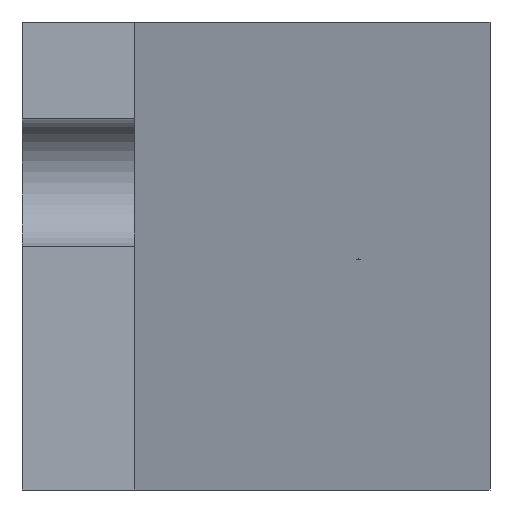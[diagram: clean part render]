
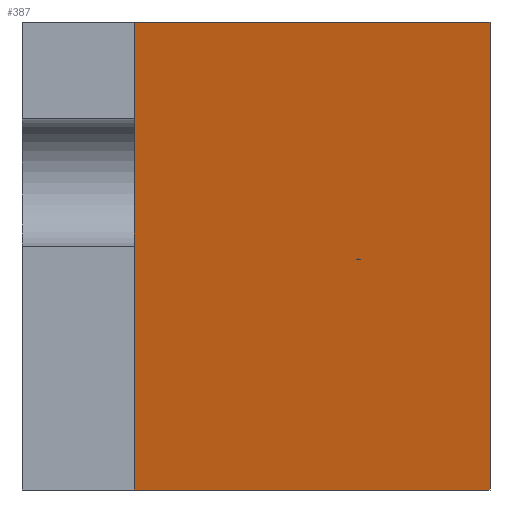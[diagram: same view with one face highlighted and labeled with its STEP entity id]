
A CAD part, left-side view. The second image highlights one B-rep face of the part: STEP entity #387.
In plain terms, the highlighted planar face has unit normal (-0.98, 0, -0.199).
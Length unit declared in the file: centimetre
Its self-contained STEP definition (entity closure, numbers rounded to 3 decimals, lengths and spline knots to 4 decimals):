
#12 = LINE ( 'NONE', #169, #213 ) ;
#21 = ORIENTED_EDGE ( 'NONE', *, *, #487, .F. ) ;
#35 = CARTESIAN_POINT ( 'NONE',  ( 500., 0., 0. ) ) ;
#47 = VERTEX_POINT ( 'NONE', #35 ) ;
#53 = CARTESIAN_POINT ( 'NONE',  ( 297.2038, 760.4366, 1000. ) ) ;
#57 = VECTOR ( 'NONE', #74, 100. ) ;
#62 = ORIENTED_EDGE ( 'NONE', *, *, #253, .F. ) ;
#74 = DIRECTION ( 'NONE',  ( -0.199, 0., 0.98 ) ) ;
#88 = DIRECTION ( 'NONE',  ( -0.199, 0., 0.98 ) ) ;
#97 = DIRECTION ( 'NONE',  ( 0., -1., 0. ) ) ;
#169 = CARTESIAN_POINT ( 'NONE',  ( 500., 760.4366, 0. ) ) ;
#210 = DIRECTION ( 'NONE',  ( 0.98, 0., 0.199 ) ) ;
#213 = VECTOR ( 'NONE', #97, 100. ) ;
#222 = CARTESIAN_POINT ( 'NONE',  ( 297.2038, 760.4366, 1000. ) ) ;
#251 = EDGE_LOOP ( 'NONE', ( #423, #21, #62, #349 ) ) ;
#253 = EDGE_CURVE ( 'NONE', #458, #410, #332, .T. ) ;
#260 = DIRECTION ( 'NONE',  ( 0., -1., 0. ) ) ;
#282 = VECTOR ( 'NONE', #260, 100. ) ;
#296 = EDGE_CURVE ( 'NONE', #458, #47, #12, .T. ) ;
#306 = VERTEX_POINT ( 'NONE', #402 ) ;
#310 = CARTESIAN_POINT ( 'NONE',  ( 297.2038, 760.4366, 1000. ) ) ;
#317 = AXIS2_PLACEMENT_3D ( 'NONE', #53, #210, #373 ) ;
#332 = LINE ( 'NONE', #367, #467 ) ;
#349 = ORIENTED_EDGE ( 'NONE', *, *, #296, .T. ) ;
#367 = CARTESIAN_POINT ( 'NONE',  ( 297.2038, 760.4366, 1000. ) ) ;
#373 = DIRECTION ( 'NONE',  ( 0.199, 0., -0.98 ) ) ;
#380 = CARTESIAN_POINT ( 'NONE',  ( 500., 760.4366, 0. ) ) ;
#387 = ADVANCED_FACE ( 'NONE', ( #488 ), #452, .F. ) ;
#402 = CARTESIAN_POINT ( 'NONE',  ( 297.2038, 0., 1000. ) ) ;
#410 = VERTEX_POINT ( 'NONE', #222 ) ;
#423 = ORIENTED_EDGE ( 'NONE', *, *, #492, .T. ) ;
#452 = PLANE ( 'NONE',  #317 ) ;
#457 = LINE ( 'NONE', #468, #57 ) ;
#458 = VERTEX_POINT ( 'NONE', #380 ) ;
#459 = LINE ( 'NONE', #310, #282 ) ;
#467 = VECTOR ( 'NONE', #88, 100. ) ;
#468 = CARTESIAN_POINT ( 'NONE',  ( 297.2038, 0., 1000. ) ) ;
#487 = EDGE_CURVE ( 'NONE', #410, #306, #459, .T. ) ;
#488 = FACE_OUTER_BOUND ( 'NONE', #251, .T. ) ;
#492 = EDGE_CURVE ( 'NONE', #47, #306, #457, .T. ) ;
